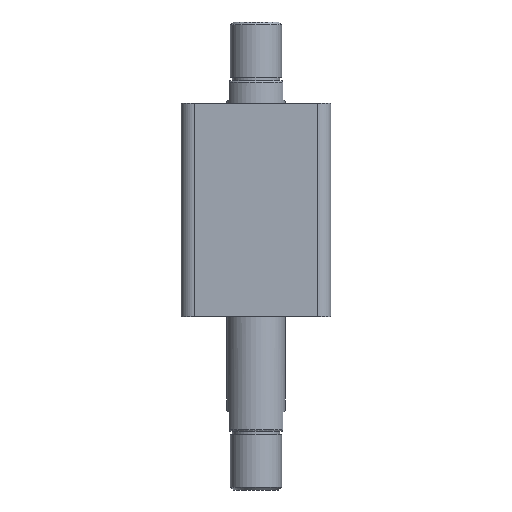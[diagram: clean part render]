
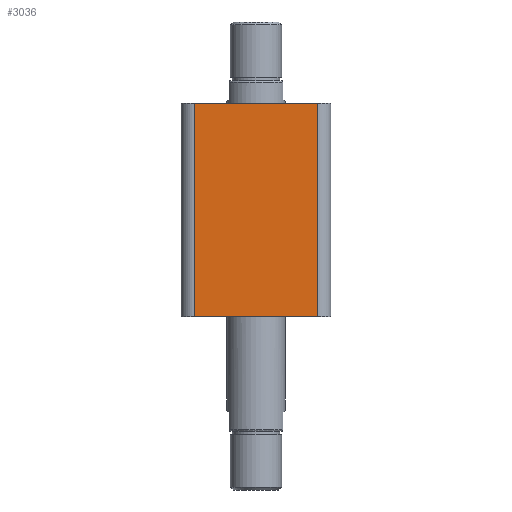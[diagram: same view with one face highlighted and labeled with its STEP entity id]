
A CAD part, front view. The second image highlights one B-rep face of the part: STEP entity #3036.
In plain terms, the highlighted planar face has unit normal (0, -1, 0).
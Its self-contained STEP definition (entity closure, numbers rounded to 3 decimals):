
#440 = AXIS2_PLACEMENT_3D ( 'NONE', #1420, #1425, #1426 ) ;
#836 = ORIENTED_EDGE ( 'NONE', *, *, #3458, .T. ) ;
#837 = ORIENTED_EDGE ( 'NONE', *, *, #3457, .F. ) ;
#838 = ORIENTED_EDGE ( 'NONE', *, *, #3456, .T. ) ;
#839 = ORIENTED_EDGE ( 'NONE', *, *, #3455, .T. ) ;
#991 = EDGE_LOOP ( 'NONE', ( #839, #838, #837, #836 ) ) ;
#1085 = VERTEX_POINT ( 'NONE', #1864 ) ;
#1092 = VERTEX_POINT ( 'NONE', #1871 ) ;
#1093 = VERTEX_POINT ( 'NONE', #1872 ) ;
#1095 = VERTEX_POINT ( 'NONE', #1874 ) ;
#1420 = CARTESIAN_POINT ( 'NONE',  ( -57., -57., 163. ) ) ;
#1424 = PLANE ( 'NONE',  #440 ) ;
#1425 = DIRECTION ( 'NONE',  ( 0., 1., 0. ) ) ;
#1426 = DIRECTION ( 'NONE',  ( 0., 0., 1. ) ) ;
#1671 = CARTESIAN_POINT ( 'NONE',  ( 47., -57., 163. ) ) ;
#1691 = CARTESIAN_POINT ( 'NONE',  ( -57., -57., 0. ) ) ;
#1692 = DIRECTION ( 'NONE',  ( 1., 0., 0. ) ) ;
#1693 = DIRECTION ( 'NONE',  ( 0., 0., 1. ) ) ;
#1694 = CARTESIAN_POINT ( 'NONE',  ( -57., -57., 163. ) ) ;
#1695 = DIRECTION ( 'NONE',  ( 1., 0., 0. ) ) ;
#1696 = CARTESIAN_POINT ( 'NONE',  ( -47., -57., 163. ) ) ;
#1697 = DIRECTION ( 'NONE',  ( 0., 0., -1. ) ) ;
#1864 = CARTESIAN_POINT ( 'NONE',  ( -47., -57., 0. ) ) ;
#1871 = CARTESIAN_POINT ( 'NONE',  ( 47., -57., 163. ) ) ;
#1872 = CARTESIAN_POINT ( 'NONE',  ( -47., -57., 163. ) ) ;
#1874 = CARTESIAN_POINT ( 'NONE',  ( 47., -57., 0. ) ) ;
#2674 = FACE_OUTER_BOUND ( 'NONE', #991, .T. ) ;
#2789 = LINE ( 'NONE', #1671, #2800 ) ;
#2795 = LINE ( 'NONE', #1691, #2798 ) ;
#2798 = VECTOR ( 'NONE', #1692, 1000. ) ;
#2799 = LINE ( 'NONE', #1694, #2802 ) ;
#2800 = VECTOR ( 'NONE', #1693, 1000. ) ;
#2801 = LINE ( 'NONE', #1696, #2804 ) ;
#2802 = VECTOR ( 'NONE', #1695, 1000. ) ;
#2804 = VECTOR ( 'NONE', #1697, 1000. ) ;
#3036 = ADVANCED_FACE ( 'NONE', ( #2674 ), #1424, .F. ) ;
#3455 = EDGE_CURVE ( 'NONE', #1085, #1095, #2795, .T. ) ;
#3456 = EDGE_CURVE ( 'NONE', #1095, #1092, #2789, .T. ) ;
#3457 = EDGE_CURVE ( 'NONE', #1093, #1092, #2799, .T. ) ;
#3458 = EDGE_CURVE ( 'NONE', #1093, #1085, #2801, .T. ) ;
